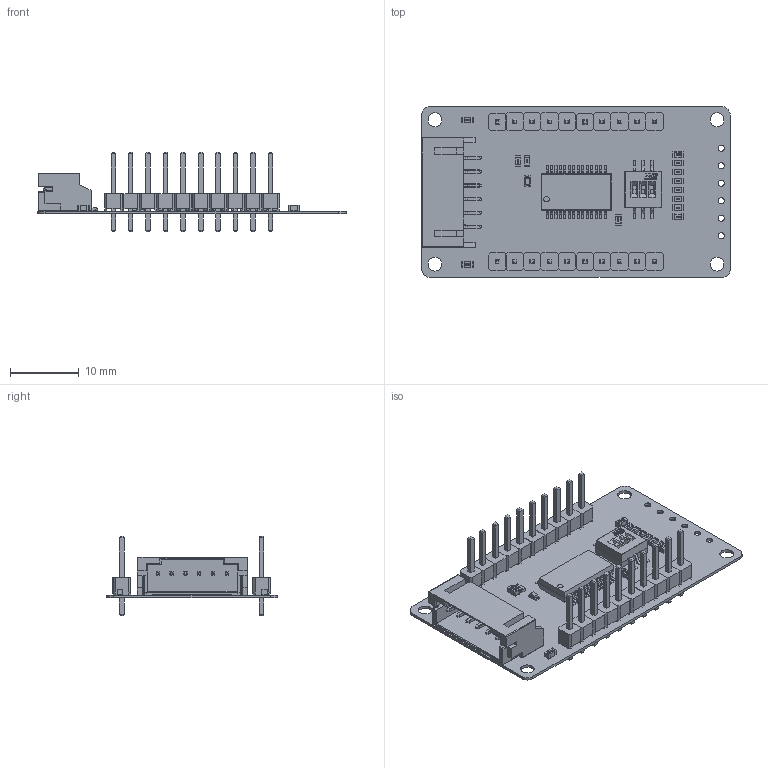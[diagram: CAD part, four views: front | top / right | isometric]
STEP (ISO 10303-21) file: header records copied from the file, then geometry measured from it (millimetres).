
FILE_DESCRIPTION(('Open CASCADE Model'),'2;1');
FILE_NAME('Open CASCADE Shape Model','2025-04-08T16:47:29',('Author'),( 'Open CASCADE'),'Open CASCADE STEP processor 6.8','Open CASCADE 6.8' ,'Unknown');
FILE_SCHEMA(('AUTOMOTIVE_DESIGN { 1 0 10303 214 1 1 1 1 }'));
Length unit declared in the file: millimetre
Products named in the file (49): PCB; Board; Open CASCADE STEP translator 6.8 1.1.1; R9; R_0603; LOGO?; R8; C6; C_0603; C5; C4; U1; SSOP-28-3; _X2_041A043E0440043F04430441_X0_; _X2_041C04350442043A0430_X0_; _X2_041D043E0436043A0430_X0_; S1; sw-dshp03ts-s; R7; R6; R3; R2; R1; P4; 2_54PIN_single; P3; P2; PH2_0-6PWB; Designator8; PH2.0_SMD-W-6P; PH2_0_SMD-W-6P-10863_AF0_ASM; PH2_0_SMD-W__1_2_30002; PH2_0_SMD-W-6P-5891_AF0_ASM; 3_1_2_3_400; 2_1_2_3_400; 1_1_2_3_4_A; D1; User_Library-LED_0603_R; User_Library-LED_0603_R_Pocket002; User_Library-LED_0603_R_Pad004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
Assembly tree (96 placements, depth 8):
  PCB
    Board
      Open CASCADE STEP translator 6.8 1.1.1
    R9
      R_0603
        R_0603
        LOGO?
    R8
      R_0603
        R_0603
        LOGO?
    C6
      C_0603
        LOGO?
        C_0603
    C5
      C_0603
        LOGO?
        C_0603
    C4
      C_0603
        LOGO?
        C_0603
    U1
      SSOP-28-3
        _X2_041A043E0440043F04430441_X0_
        _X2_041C04350442043A0430_X0_
        _X2_041D043E0436043A0430_X0_  x14
    S1
      sw-dshp03ts-s
    R7
      R_0603
        R_0603
        LOGO?
    R6
      R_0603
        R_0603
        LOGO?
    R3
      R_0603
        R_0603
        LOGO?
    R2
      R_0603
        R_0603
        LOGO?
    R1
      R_0603
        R_0603
        LOGO?
    P4
      2_54PIN_single  x10
    P3
      2_54PIN_single  x10
    P2
      PH2_0-6PWB
        Designator8
          PH2.0_SMD-W-6P
            PH2_0_SMD-W-6P-10863_AF0_ASM
              PH2_0_SMD-W__1_2_30002  x6
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Bounding box: 44.85 x 24.85 x 11.54 mm (x, y, z)
Volume: 1192.3 mm3; surface area: 4735.8 mm2
Topology: 286 solids, 287 shells, 5142 faces, 12640 edges, 8210 vertices
Faces by surface type: plane 3348, bspline 1003, cylinder 691, sphere 52, torus 48
Full cylindrical faces by diameter (mm): 0.9 x6, 1 x16, 1.15 x4, 2 x4
Entity records: 65272 total; most frequent: CARTESIAN_POINT 16807, ORIENTED_EDGE 8828, DIRECTION 7421, EDGE_CURVE 4415, LINE 3617, VECTOR 3617, VERTEX_POINT 2904, AXIS2_PLACEMENT_3D 1902
